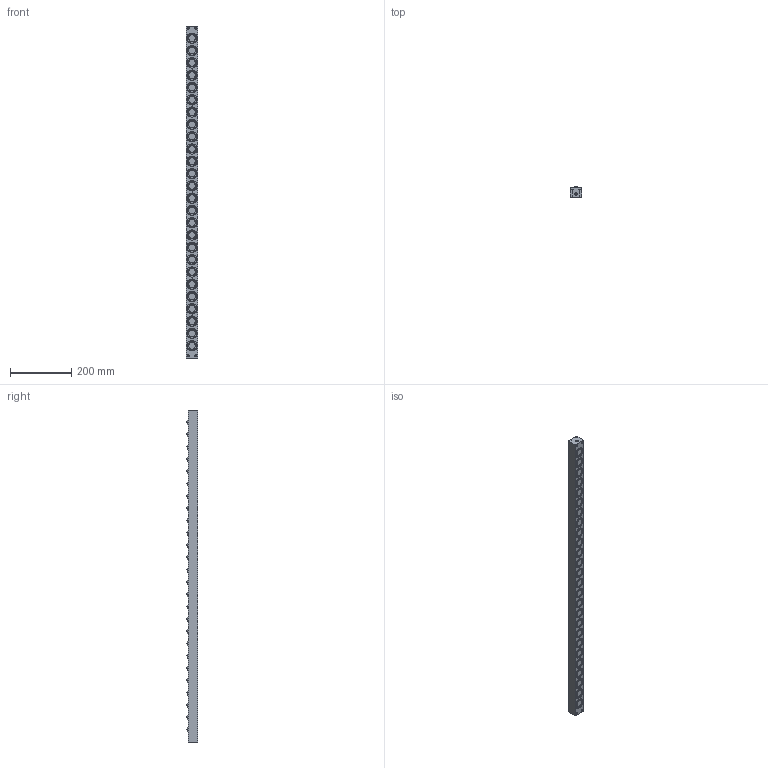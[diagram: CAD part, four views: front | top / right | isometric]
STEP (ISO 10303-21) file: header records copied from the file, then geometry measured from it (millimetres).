
FILE_DESCRIPTION (( 'STEP AP203' ), '1' );
FILE_NAME ('PVL30S-26.STEP', '2016-02-18T05:26:18', ( '' ), ( '' ), 'SwSTEP 2.0', 'SolidWorks 2013', '' );
FILE_SCHEMA (( 'CONFIG_CONTROL_DESIGN' ));
Length unit declared in the file: millimetre
Products named in the file (1): PVL30S-26
Bounding box: 38 x 36 x 1080 mm (x, y, z)
Volume: 1253658.6 mm3; surface area: 193654.4 mm2
Topology: 1 solids, 1 shells, 839 faces, 1974 edges, 1323 vertices
Faces by surface type: cylinder 538, plane 245, sphere 52, cone 4
Entity records: 24875 total; most frequent: DIRECTION 4888, CARTESIAN_POINT 4135, ORIENTED_EDGE 3944, AXIS2_PLACEMENT_3D 2076, EDGE_CURVE 1972, VERTEX_POINT 1323, CIRCLE 1236, EDGE_LOOP 1035
